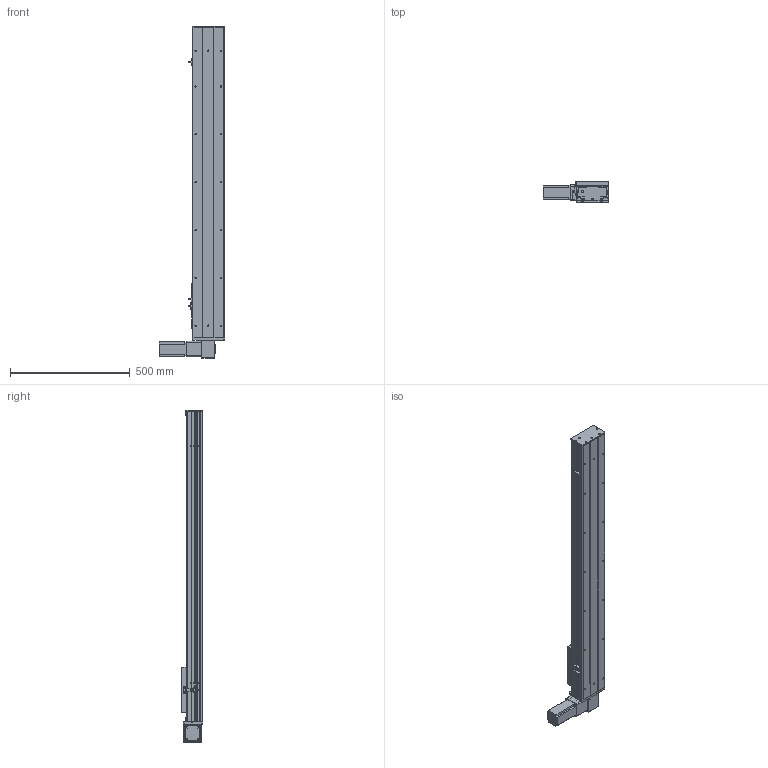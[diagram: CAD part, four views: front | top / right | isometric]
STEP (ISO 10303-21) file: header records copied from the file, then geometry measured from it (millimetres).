
FILE_DESCRIPTION (( 'STEP AP203' ), '1' );
FILE_NAME ('Y135CB-D90-S1000-BD-P400W.STEP', '2020-02-19T03:31:22', ( '微软用户' ), ( '微软中国' ), 'SwSTEP 2.0', 'SolidWorks 2017', '' );
FILE_SCHEMA (( 'CONFIG_CONTROL_DESIGN' ));
Length unit declared in the file: millimetre
Products named in the file (16): 0B-埴倛裔啣; C-雄赽釱--; 0B-源倛裔啣; Y10B--々湍喘謫眊--666; san松下电机400不带刹车----; 0B-薊粣ん眊; 5CB --掛极耜裔啣-; Y135CB-D90-S1000-BD-P400W; C-詩湍揤踡え-陔; 135CB--詩湍-CE; Y135CB-耜裔; Y100-135俋离換覜ん--; 135CB---遴掛极.-; Y135C-陔俋离換覜結え-; 35CB---喘謫眊楊擘啣; 5C--俋欶
Assembly tree (19 placements, depth 2):
  Y135CB-D90-S1000-BD-P400W
    Y135CB-耜裔
    135CB---遴掛极.-
    35CB---喘謫眊楊擘啣
    0B-埴倛裔啣
    0B-源倛裔啣
    san松下电机400不带刹车----
    5CB --掛极耜裔啣-  x2
    C-詩湍揤踡え-陔  x2
    135CB--詩湍-CE
    Y100-135俋离換覜ん--  x3
    Y135C-陔俋离換覜結え-
    5C--俋欶
    C-雄赽釱--
    Y10B--々湍喘謫眊--666
    0B-薊粣ん眊
Bounding box: 272 x 91 x 1388 mm (x, y, z)
Volume: 4386792.4 mm3; surface area: 1672497.4 mm2
Topology: 19 solids, 19 shells, 855 faces, 2266 edges, 1500 vertices
Faces by surface type: cylinder 424, plane 415, cone 16
Entity records: 26006 total; most frequent: DIRECTION 4334, CARTESIAN_POINT 4247, ORIENTED_EDGE 4008, EDGE_CURVE 2004, AXIS2_PLACEMENT_3D 1587, VERTEX_POINT 1328, VECTOR 1160, LINE 1160
